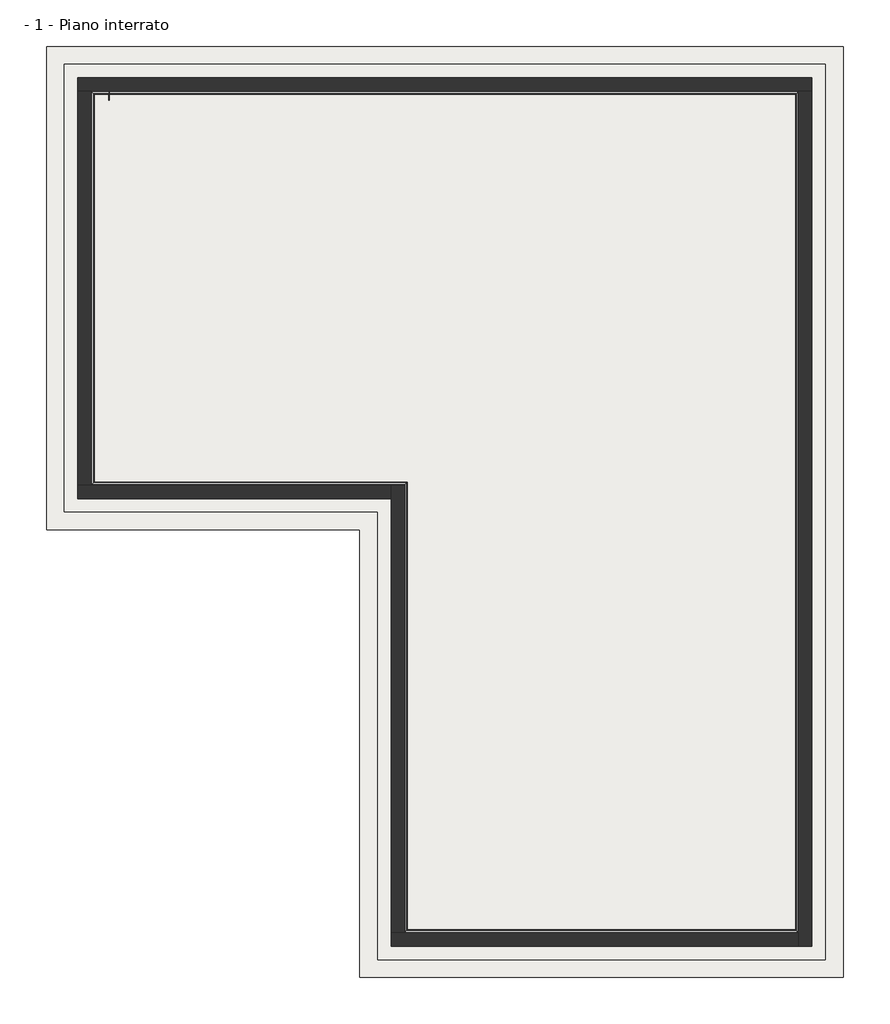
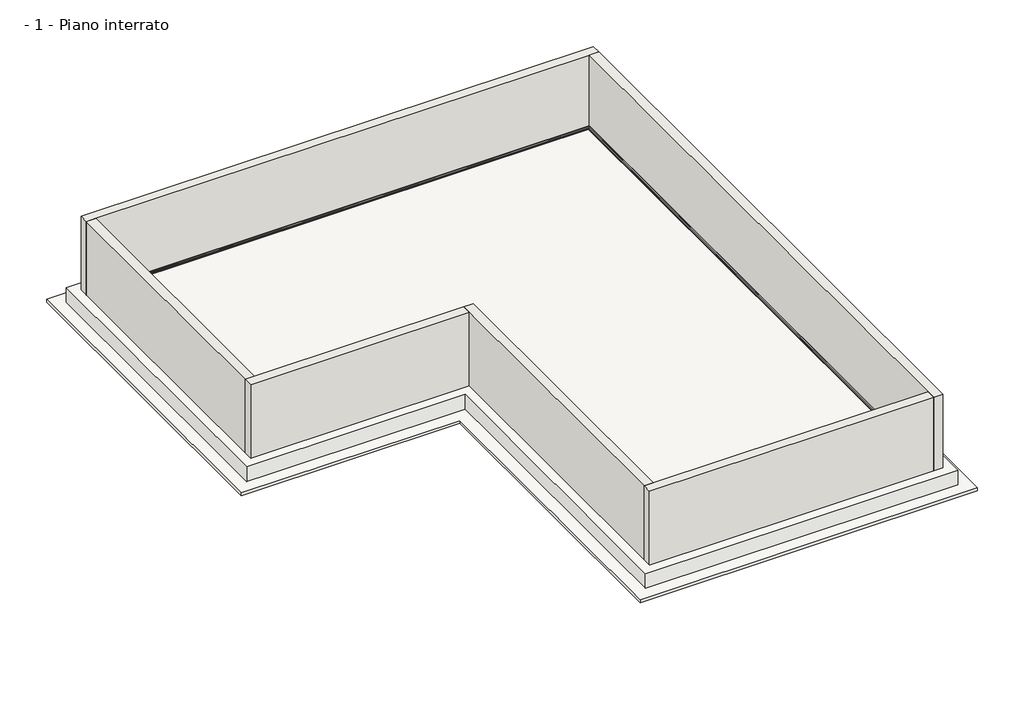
# One storey: 6 walls, 3 slabs, 2 proxies.
"""IFC4 building model written with IfcOpenShell, lengths in millimetres."""

import ifcopenshell
import ifcopenshell.guid

model = None  # the IFC model being written
_history = None  # IfcOwnerHistory: only IFC2X3 demands one
_inside = {}  # id of a spatial element -> (the spatial element, [elements in it])
_under = {}  # id of a project, library or spatial element -> (it, [spatial elements below it])
_declared = {}  # id of a project -> (the project, [libraries it declares])
_typed = {}  # id of a type object -> (the type object, [elements of that type])
_made_of = {}  # id of a material, layer set ... -> (it, [elements and type objects made of it])


def new_model(schema):
    """Start an empty IFC model of exactly this schema.

    Asked for "IFC4X3", IfcOpenShell would pick the latest addendum, in which some entities
    have other attributes; the version numbers below select the first issue.
    IFC2X3 requires an IfcOwnerHistory on every rooted entity: one is made here for all.
    """
    global model, _history
    if schema == "IFC4X3":
        model = ifcopenshell.file(schema_version=(4, 3, 0, 0))
    else:
        model = ifcopenshell.file(schema=schema)
    _inside.clear()
    _under.clear()
    _declared.clear()
    _typed.clear()
    _made_of.clear()
    _history = None
    if model.schema == "IFC2X3":
        org = make("IfcOrganization", Name="unknown")
        user = make(
            "IfcPersonAndOrganization",
            ThePerson=make("IfcPerson", FamilyName="unknown"),
            TheOrganization=org,
        )
        app = make(
            "IfcApplication",
            ApplicationDeveloper=org,
            Version="unknown",
            ApplicationFullName="unknown",
            ApplicationIdentifier="unknown",
        )
        _history = make(
            "IfcOwnerHistory",
            OwningUser=user,
            OwningApplication=app,
            ChangeAction="ADDED",
            CreationDate=0,
        )
    return model


def make(cls, **values):
    """One entity of the class cls with the attributes given. An attribute that is None is left unset."""
    return model.create_entity(
        cls, **{name: value for name, value in values.items() if value is not None}
    )


def rooted(cls, **values):
    """An entity with a GlobalId (a new one), such as an element, a storey or a relation."""
    return make(cls, GlobalId=ifcopenshell.guid.new(), OwnerHistory=_history, **values)


def si_unit(unit_type, name, prefix=None):
    """IfcSIUnit, for example si_unit("LENGTHUNIT", "METRE", prefix="MILLI")."""
    return make("IfcSIUnit", UnitType=unit_type, Prefix=prefix, Name=name)


def assignment(units):
    """IfcUnitAssignment: the units of a project."""
    return None if units is None else make("IfcUnitAssignment", Units=units)


def point(xyz):
    """IfcCartesianPoint."""
    return None if xyz is None else make("IfcCartesianPoint", Coordinates=xyz)


def direction(xyz):
    """IfcDirection."""
    return None if xyz is None else make("IfcDirection", DirectionRatios=xyz)


def frame(location, z_axis=None, x_axis=None):
    """IfcAxis2Placement3D, a coordinate frame: its origin and axes. An axis left out is left unset."""
    return make(
        "IfcAxis2Placement3D",
        Location=point(location),
        Axis=direction(z_axis),
        RefDirection=direction(x_axis),
    )


def frame_2d(location, x_axis=None):
    """IfcAxis2Placement2D, a coordinate frame in the plane: its origin and x axis."""
    return make(
        "IfcAxis2Placement2D", Location=point(location), RefDirection=direction(x_axis)
    )


def origin():
    """The frame at (0, 0, 0) with its axes left unset."""
    return frame((0.0, 0.0, 0.0))


def origin_with_axes():
    """The frame at (0, 0, 0) with the z axis (0, 0, 1) and the x axis (1, 0, 0) written out."""
    return frame((0.0, 0.0, 0.0), z_axis=(0.0, 0.0, 1.0), x_axis=(1.0, 0.0, 0.0))


def origin_2d():
    """The frame at (0, 0) in the plane with its x axis left unset."""
    return frame_2d((0.0, 0.0))


def place(relative_to, where):
    """IfcLocalPlacement: puts the frame where relative to a parent placement (None: the world)."""
    return make(
        "IfcLocalPlacement", PlacementRelTo=relative_to, RelativePlacement=where
    )


def context(
    kind, dimensions, precision=None, world=None, true_north=None, identifier=None
):
    """IfcGeometricRepresentationContext, for example the 3D "Model" context."""
    return make(
        "IfcGeometricRepresentationContext",
        ContextIdentifier=identifier,
        ContextType=kind,
        CoordinateSpaceDimension=dimensions,
        Precision=precision,
        WorldCoordinateSystem=world,
        TrueNorth=true_north,
    )


def project(units=None, contexts=None):
    """IfcProject with its units and contexts."""
    return rooted(
        "IfcProject",
        Name="project",
        RepresentationContexts=contexts,
        UnitsInContext=assignment(units),
    )


def spatial(cls, under=None, at=None, **own):
    """A site, building, storey or space (cls), placed at a placement, below another one or the project."""
    s = rooted(cls, ObjectPlacement=at, **own)
    if under is not None:
        _under.setdefault(under.id(), (under, []))[1].append(s)
    return s


def polyline(points):
    """IfcPolyline through the points."""
    return make("IfcPolyline", Points=[point(p) for p in points])


def circle_curve(where, radius):
    """IfcCircle in the frame where."""
    return make("IfcCircle", Position=where, Radius=radius)


def trimmed(basis, trim1, trim2, sense, master):
    """IfcTrimmedCurve: the piece of a basis curve between two trims."""
    return make(
        "IfcTrimmedCurve",
        BasisCurve=basis,
        Trim1=trim1,
        Trim2=trim2,
        SenseAgreement=sense,
        MasterRepresentation=master,
    )


def segment(curve, same_sense, transition):
    """IfcCompositeCurveSegment."""
    return make(
        "IfcCompositeCurveSegment",
        Transition=transition,
        SameSense=same_sense,
        ParentCurve=curve,
    )


def composite_curve(segments, self_intersect=None):
    """IfcCompositeCurve: segments joined end to end."""
    return make("IfcCompositeCurve", Segments=segments, SelfIntersect=self_intersect)


def outline(outer, holes=None, kind="AREA"):
    """IfcArbitraryClosedProfileDef: a profile drawn as a closed curve; with holes, ...WithVoids."""
    if holes is None:
        return make("IfcArbitraryClosedProfileDef", ProfileType=kind, OuterCurve=outer)
    return make(
        "IfcArbitraryProfileDefWithVoids",
        ProfileType=kind,
        OuterCurve=outer,
        InnerCurves=holes,
    )


def extrude(swept, where, along, depth):
    """IfcExtrudedAreaSolid: the profile swept, set in the frame where, extruded along a direction by depth."""
    return make(
        "IfcExtrudedAreaSolid",
        SweptArea=swept,
        Position=where,
        ExtrudedDirection=direction(along),
        Depth=depth,
    )


def faces_of(points, faces, orient=None, outer=None):
    """IfcFace entities. A face is a list of loops; a loop is a list of indices into points, from 0.

    orient and outer hold one flag for each loop. By default every Orientation is true, the
    first loop of a face is its IfcFaceOuterBound and the others are IfcFaceBound.
    """
    made = []
    for i, loops in enumerate(faces):
        bounds = []
        for j, loop in enumerate(loops):
            is_outer = j == 0 if outer is None else outer[i][j]
            bounds.append(
                make(
                    "IfcFaceOuterBound" if is_outer else "IfcFaceBound",
                    Bound=make("IfcPolyLoop", Polygon=[points[k] for k in loop]),
                    Orientation=True if orient is None else orient[i][j],
                )
            )
        made.append(make("IfcFace", Bounds=bounds))
    return made


def faceted_brep(points, faces, orient=None, outer=None, voids=None):
    """IfcFacetedBrep: a solid bounded by flat faces; with voids (closed shells), ...WithVoids."""
    shared = [point(p) for p in points]
    hull = make("IfcClosedShell", CfsFaces=faces_of(shared, faces, orient, outer))
    if voids is None:
        return make("IfcFacetedBrep", Outer=hull)
    return make(
        "IfcFacetedBrepWithVoids",
        Outer=hull,
        Voids=[
            make(cls, CfsFaces=faces_of(shared, fs, o, b)) for cls, fs, o, b in voids
        ],
    )


def shape(context_of_items, identifier, shape_type, items):
    """IfcShapeRepresentation: the items that make up one representation, for example the "Body"."""
    return make(
        "IfcShapeRepresentation",
        ContextOfItems=context_of_items,
        RepresentationIdentifier=identifier,
        RepresentationType=shape_type,
        Items=items,
    )


def source(mapping_origin, context_of_items, identifier, shape_type, items):
    """IfcRepresentationMap: a shape defined once, which mapped items show again and again."""
    return make(
        "IfcRepresentationMap",
        MappingOrigin=mapping_origin,
        MappedRepresentation=shape(context_of_items, identifier, shape_type, items),
    )


def transform(
    local_origin,
    x_axis=None,
    y_axis=None,
    z_axis=None,
    scale=None,
    scale2=None,
    scale3=None,
    uniform=True,
):
    """IfcCartesianTransformationOperator3D, or its non-uniform kind. x_axis, y_axis, z_axis: its Axis1, 2, 3."""
    if uniform:
        return make(
            "IfcCartesianTransformationOperator3D",
            Axis1=direction(x_axis),
            Axis2=direction(y_axis),
            LocalOrigin=point(local_origin),
            Scale=scale,
            Axis3=direction(z_axis),
        )
    return make(
        "IfcCartesianTransformationOperator3DnonUniform",
        Axis1=direction(x_axis),
        Axis2=direction(y_axis),
        LocalOrigin=point(local_origin),
        Scale=scale,
        Axis3=direction(z_axis),
        Scale2=scale2,
        Scale3=scale3,
    )


def mapped(mapping_source, mapping_target):
    """IfcMappedItem: shows the shape of a source again, moved by a transform."""
    return make(
        "IfcMappedItem", MappingSource=mapping_source, MappingTarget=mapping_target
    )


def made_of(thing, what):
    """Note that an element or type object is made of a material, layer set ...; save() writes the relation."""
    if what is not None:
        _made_of.setdefault(what.id(), (what, []))[1].append(thing)
    return thing


def element(
    cls,
    number,
    at=None,
    inside=None,
    cuts=None,
    type_object=None,
    material=None,
    context=None,
    identifier="Body",
    shape_type=None,
    held_by="IfcProductDefinitionShape",
    body=None,
    shapes=None,
    **own,
):
    """One element of the class cls, such as IfcWall. Its Tag is "e" and its number.

    at: its placement. inside: the storey or other place that contains it. cuts: it is an
    opening in that element (IfcRelVoidsElement). A single representation is given by context,
    identifier, shape_type and body (its items); several are given by shapes. held_by: the class
    of the entity that holds the representations. save() writes the other relations.
    """
    e = rooted(cls, Tag="e%d" % number, ObjectPlacement=at, **own)
    if body is not None:
        shapes = [shape(context, identifier, shape_type, body)]
    if shapes is not None:
        e.Representation = make(held_by, Representations=shapes)
    if inside is not None:
        _inside.setdefault(inside.id(), (inside, []))[1].append(e)
    if cuts is not None:
        rooted(
            "IfcRelVoidsElement", RelatingBuildingElement=cuts, RelatedOpeningElement=e
        )
    if type_object is not None:
        _typed.setdefault(type_object.id(), (type_object, []))[1].append(e)
    return made_of(e, material)


def aggregate(whole, parts):
    """IfcRelAggregates: a whole, such as a stair, and the parts it consists of."""
    return rooted("IfcRelAggregates", RelatingObject=whole, RelatedObjects=parts)


def save(model, path):
    """Write the relations noted so far, then the file.

    IfcRelAggregates (storeys below a building ...), IfcRelContainedInSpatialStructure (elements
    in a storey), IfcRelDefinesByType, IfcRelAssociatesMaterial and IfcRelDeclares: one each for
    every whole, place, type object, material and project.
    """
    for whole, parts in _under.values():
        aggregate(whole, parts)
    for where, things in _inside.values():
        rooted(
            "IfcRelContainedInSpatialStructure",
            RelatedElements=things,
            RelatingStructure=where,
        )
    for kind, things in _typed.values():
        rooted("IfcRelDefinesByType", RelatedObjects=things, RelatingType=kind)
    for what, things in _made_of.values():
        rooted("IfcRelAssociatesMaterial", RelatedObjects=things, RelatingMaterial=what)
    for by, libraries in _declared.values():
        rooted("IfcRelDeclares", RelatingContext=by, RelatedDefinitions=libraries)
    model.write(path)


def generic_models_3b7ed561(model_context):
    return source(origin(), model_context, "Body", "SweptSolid", [
        extrude(outline(composite_curve([segment(trimmed(circle_curve(origin_2d(), 5.0), [point((-5.0, 0.0))], [point((5.0, 0.0))], False, "CARTESIAN"), True, "CONTINUOUS"), segment(trimmed(circle_curve(origin_2d(), 5.0), [point((5.0, 0.0))], [point((-5.0, 0.0))], False, "CARTESIAN"), True, "CONTINUOUS")], self_intersect=False)), origin_with_axes(), (0.0, 0.0, 1.0), 200.0),
    ])


model = new_model("IFC4")

# Units and contexts
model_context = context("Model", 3, world=origin())
ifc_project = project(units=[si_unit("LENGTHUNIT", "METRE", prefix="MILLI")], contexts=[model_context])

# Site, building, storey
site = spatial("IfcSite", under=ifc_project)
building = spatial("IfcBuilding", under=site)
storey = spatial("IfcBuildingStorey", under=building, Name="- 1 - Piano interrato", Elevation=-2500.0)

# Proxies
placement = place(None, origin())
element("IfcBuildingElementProxy", 1, Name="SISTEMA BI FLEX H.10 VOLTECO", ObjectType="SISTEMA BI FLEX H.10 VOLTECO", at=placement, inside=storey, context=model_context, shape_type="Brep", body=[
    faceted_brep([(-5465.8968209, 8966.648913, -2459.0), (-5468.3968209, 8969.148913, -2456.5), (-5475.3968209, 8976.148913, -2456.5), (-5476.8968209, 8977.648913, -2455.5), (-5524.3968209, 9025.148913, -2455.5), (-5524.3968209, 9025.148913, -2408.0), (-5525.3968209, 9026.148913, -2406.5), (-5525.3968209, 9026.148913, -2399.5), (-5527.8968209, 9028.648913, -2397.0), (-5527.8968209, 9028.648913, -2459.0), (-5526.8968209, 9027.648913, -2408.0), (-5525.8968209, 9026.648913, -2408.0), (-5525.8968209, 9026.648913, -2457.0), (-5476.8968209, 8977.648913, -2457.0), (-5476.8968209, 8977.648913, -2458.0), (-5526.8968209, 9027.648913, -2458.0), (10210.1031791, 8966.648913, -2459.0), (10272.1031791, 9028.648913, -2459.0), (10272.1031791, 9028.648913, -2397.0), (10269.6031791, 9026.148913, -2399.5), (10269.6031791, 9026.148913, -2406.5), (10268.6031791, 9025.148913, -2408.0), (10268.6031791, 9025.148913, -2455.5), (10221.1031791, 8977.648913, -2455.5), (10219.6031791, 8976.148913, -2456.5), (10212.6031791, 8969.148913, -2456.5), (10271.1031791, 9027.648913, -2408.0), (10271.1031791, 9027.648913, -2458.0), (10221.1031791, 8977.648913, -2458.0), (10221.1031791, 8977.648913, -2457.0), (10270.1031791, 9026.648913, -2457.0), (10270.1031791, 9026.648913, -2408.0)], [[[0, 1, 2, 3, 4, 5, 6, 7, 8, 9], [10, 11, 12, 13, 14, 15]], [[16, 17, 18, 19, 20, 21, 22, 23, 24, 25], [26, 27, 28, 29, 30, 31]], [[1, 0, 16, 25]], [[2, 1, 25, 24]], [[3, 2, 24, 23]], [[4, 3, 23, 22]], [[5, 4, 22, 21]], [[6, 5, 21, 20]], [[7, 6, 20, 19]], [[8, 7, 19, 18]], [[9, 8, 18, 17]], [[0, 9, 17, 16]], [[11, 10, 26, 31]], [[12, 11, 31, 30]], [[13, 12, 30, 29]], [[14, 13, 29, 28]], [[15, 14, 28, 27]], [[10, 15, 27, 26]]]),
    faceted_brep([(10210.1031791, 8966.648913, -2459.0), (10212.6031791, 8969.148913, -2456.5), (10219.6031791, 8976.148913, -2456.5), (10221.1031791, 8977.648913, -2455.5), (10268.6031791, 9025.148913, -2455.5), (10268.6031791, 9025.148913, -2408.0), (10269.6031791, 9026.148913, -2406.5), (10269.6031791, 9026.148913, -2399.5), (10272.1031791, 9028.648913, -2397.0), (10272.1031791, 9028.648913, -2459.0), (10271.1031791, 9027.648913, -2408.0), (10270.1031791, 9026.648913, -2408.0), (10270.1031791, 9026.648913, -2457.0), (10221.1031791, 8977.648913, -2457.0), (10221.1031791, 8977.648913, -2458.0), (10271.1031791, 9027.648913, -2458.0), (10210.1031791, -9709.351087, -2459.0), (10272.1031791, -9771.351087, -2459.0), (10272.1031791, -9771.351087, -2397.0), (10269.6031791, -9768.851087, -2399.5), (10269.6031791, -9768.851087, -2406.5), (10268.6031791, -9767.851087, -2408.0), (10268.6031791, -9767.851087, -2455.5), (10221.1031791, -9720.351087, -2455.5), (10219.6031791, -9718.851087, -2456.5), (10212.6031791, -9711.851087, -2456.5), (10271.1031791, -9770.351087, -2408.0), (10271.1031791, -9770.351087, -2458.0), (10221.1031791, -9720.351087, -2458.0), (10221.1031791, -9720.351087, -2457.0), (10270.1031791, -9769.351087, -2457.0), (10270.1031791, -9769.351087, -2408.0)], [[[0, 1, 2, 3, 4, 5, 6, 7, 8, 9], [10, 11, 12, 13, 14, 15]], [[16, 17, 18, 19, 20, 21, 22, 23, 24, 25], [26, 27, 28, 29, 30, 31]], [[1, 0, 16, 25]], [[2, 1, 25, 24]], [[3, 2, 24, 23]], [[4, 3, 23, 22]], [[5, 4, 22, 21]], [[6, 5, 21, 20]], [[7, 6, 20, 19]], [[8, 7, 19, 18]], [[9, 8, 18, 17]], [[0, 9, 17, 16]], [[11, 10, 26, 31]], [[12, 11, 31, 30]], [[13, 12, 30, 29]], [[14, 13, 29, 28]], [[15, 14, 28, 27]], [[10, 15, 27, 26]]]),
    faceted_brep([(10210.1031791, -9709.351087, -2459.0), (10212.6031791, -9711.851087, -2456.5), (10219.6031791, -9718.851087, -2456.5), (10221.1031791, -9720.351087, -2455.5), (10268.6031791, -9767.851087, -2455.5), (10268.6031791, -9767.851087, -2408.0), (10269.6031791, -9768.851087, -2406.5), (10269.6031791, -9768.851087, -2399.5), (10272.1031791, -9771.351087, -2397.0), (10272.1031791, -9771.351087, -2459.0), (10271.1031791, -9770.351087, -2408.0), (10270.1031791, -9769.351087, -2408.0), (10270.1031791, -9769.351087, -2457.0), (10221.1031791, -9720.351087, -2457.0), (10221.1031791, -9720.351087, -2458.0), (10271.1031791, -9770.351087, -2458.0), (1534.1031791, -9709.351087, -2459.0), (1472.1031791, -9771.351087, -2459.0), (1472.1031791, -9771.351087, -2397.0), (1474.6031791, -9768.851087, -2399.5), (1474.6031791, -9768.851087, -2406.5), (1475.6031791, -9767.851087, -2408.0), (1475.6031791, -9767.851087, -2455.5), (1523.1031791, -9720.351087, -2455.5), (1524.6031791, -9718.851087, -2456.5), (1531.6031791, -9711.851087, -2456.5), (1473.1031791, -9770.351087, -2408.0), (1473.1031791, -9770.351087, -2458.0), (1523.1031791, -9720.351087, -2458.0), (1523.1031791, -9720.351087, -2457.0), (1474.1031791, -9769.351087, -2457.0), (1474.1031791, -9769.351087, -2408.0)], [[[0, 1, 2, 3, 4, 5, 6, 7, 8, 9], [10, 11, 12, 13, 14, 15]], [[16, 17, 18, 19, 20, 21, 22, 23, 24, 25], [26, 27, 28, 29, 30, 31]], [[1, 0, 16, 25]], [[2, 1, 25, 24]], [[3, 2, 24, 23]], [[4, 3, 23, 22]], [[5, 4, 22, 21]], [[6, 5, 21, 20]], [[7, 6, 20, 19]], [[8, 7, 19, 18]], [[9, 8, 18, 17]], [[0, 9, 17, 16]], [[11, 10, 26, 31]], [[12, 11, 31, 30]], [[13, 12, 30, 29]], [[14, 13, 29, 28]], [[15, 14, 28, 27]], [[10, 15, 27, 26]]]),
    faceted_brep([(1534.1031791, -9709.351087, -2459.0), (1531.6031791, -9711.851087, -2456.5), (1524.6031791, -9718.851087, -2456.5), (1523.1031791, -9720.351087, -2455.5), (1475.6031791, -9767.851087, -2455.5), (1475.6031791, -9767.851087, -2408.0), (1474.6031791, -9768.851087, -2406.5), (1474.6031791, -9768.851087, -2399.5), (1472.1031791, -9771.351087, -2397.0), (1472.1031791, -9771.351087, -2459.0), (1473.1031791, -9770.351087, -2408.0), (1474.1031791, -9769.351087, -2408.0), (1474.1031791, -9769.351087, -2457.0), (1523.1031791, -9720.351087, -2457.0), (1523.1031791, -9720.351087, -2458.0), (1473.1031791, -9770.351087, -2458.0), (1534.1031791, 290.648913, -2459.0), (1472.1031791, 228.648913, -2459.0), (1472.1031791, 228.648913, -2397.0), (1474.6031791, 231.148913, -2399.5), (1474.6031791, 231.148913, -2406.5), (1475.6031791, 232.148913, -2408.0), (1475.6031791, 232.148913, -2455.5), (1523.1031791, 279.648913, -2455.5), (1524.6031791, 281.148913, -2456.5), (1531.6031791, 288.148913, -2456.5), (1473.1031791, 229.648913, -2408.0), (1473.1031791, 229.648913, -2458.0), (1523.1031791, 279.648913, -2458.0), (1523.1031791, 279.648913, -2457.0), (1474.1031791, 230.648913, -2457.0), (1474.1031791, 230.648913, -2408.0)], [[[0, 1, 2, 3, 4, 5, 6, 7, 8, 9], [10, 11, 12, 13, 14, 15]], [[16, 17, 18, 19, 20, 21, 22, 23, 24, 25], [26, 27, 28, 29, 30, 31]], [[1, 0, 16, 25]], [[2, 1, 25, 24]], [[3, 2, 24, 23]], [[4, 3, 23, 22]], [[5, 4, 22, 21]], [[6, 5, 21, 20]], [[7, 6, 20, 19]], [[8, 7, 19, 18]], [[9, 8, 18, 17]], [[0, 9, 17, 16]], [[11, 10, 26, 31]], [[12, 11, 31, 30]], [[13, 12, 30, 29]], [[14, 13, 29, 28]], [[15, 14, 28, 27]], [[10, 15, 27, 26]]]),
    faceted_brep([(1534.1031791, 290.648913, -2459.0), (1531.6031791, 288.148913, -2456.5), (1524.6031791, 281.148913, -2456.5), (1523.1031791, 279.648913, -2455.5), (1475.6031791, 232.148913, -2455.5), (1475.6031791, 232.148913, -2408.0), (1474.6031791, 231.148913, -2406.5), (1474.6031791, 231.148913, -2399.5), (1472.1031791, 228.648913, -2397.0), (1472.1031791, 228.648913, -2459.0), (1473.1031791, 229.648913, -2408.0), (1474.1031791, 230.648913, -2408.0), (1474.1031791, 230.648913, -2457.0), (1523.1031791, 279.648913, -2457.0), (1523.1031791, 279.648913, -2458.0), (1473.1031791, 229.648913, -2458.0), (-5465.8968209, 290.648913, -2459.0), (-5527.8968209, 228.648913, -2459.0), (-5527.8968209, 228.648913, -2397.0), (-5525.3968209, 231.148913, -2399.5), (-5525.3968209, 231.148913, -2406.5), (-5524.3968209, 232.148913, -2408.0), (-5524.3968209, 232.148913, -2455.5), (-5476.8968209, 279.648913, -2455.5), (-5475.3968209, 281.148913, -2456.5), (-5468.3968209, 288.148913, -2456.5), (-5526.8968209, 229.648913, -2408.0), (-5526.8968209, 229.648913, -2458.0), (-5476.8968209, 279.648913, -2458.0), (-5476.8968209, 279.648913, -2457.0), (-5525.8968209, 230.648913, -2457.0), (-5525.8968209, 230.648913, -2408.0)], [[[0, 1, 2, 3, 4, 5, 6, 7, 8, 9], [10, 11, 12, 13, 14, 15]], [[16, 17, 18, 19, 20, 21, 22, 23, 24, 25], [26, 27, 28, 29, 30, 31]], [[1, 0, 16, 25]], [[2, 1, 25, 24]], [[3, 2, 24, 23]], [[4, 3, 23, 22]], [[5, 4, 22, 21]], [[6, 5, 21, 20]], [[7, 6, 20, 19]], [[8, 7, 19, 18]], [[9, 8, 18, 17]], [[0, 9, 17, 16]], [[11, 10, 26, 31]], [[12, 11, 31, 30]], [[13, 12, 30, 29]], [[14, 13, 29, 28]], [[15, 14, 28, 27]], [[10, 15, 27, 26]]]),
    faceted_brep([(-5465.8968209, 290.648913, -2459.0), (-5468.3968209, 288.148913, -2456.5), (-5475.3968209, 281.148913, -2456.5), (-5476.8968209, 279.648913, -2455.5), (-5524.3968209, 232.148913, -2455.5), (-5524.3968209, 232.148913, -2408.0), (-5525.3968209, 231.148913, -2406.5), (-5525.3968209, 231.148913, -2399.5), (-5527.8968209, 228.648913, -2397.0), (-5527.8968209, 228.648913, -2459.0), (-5526.8968209, 229.648913, -2408.0), (-5525.8968209, 230.648913, -2408.0), (-5525.8968209, 230.648913, -2457.0), (-5476.8968209, 279.648913, -2457.0), (-5476.8968209, 279.648913, -2458.0), (-5526.8968209, 229.648913, -2458.0), (-5465.8968209, 8966.648913, -2459.0), (-5527.8968209, 9028.648913, -2459.0), (-5527.8968209, 9028.648913, -2397.0), (-5525.3968209, 9026.148913, -2399.5), (-5525.3968209, 9026.148913, -2406.5), (-5524.3968209, 9025.148913, -2408.0), (-5524.3968209, 9025.148913, -2455.5), (-5476.8968209, 8977.648913, -2455.5), (-5475.3968209, 8976.148913, -2456.5), (-5468.3968209, 8969.148913, -2456.5), (-5526.8968209, 9027.648913, -2408.0), (-5526.8968209, 9027.648913, -2458.0), (-5476.8968209, 8977.648913, -2458.0), (-5476.8968209, 8977.648913, -2457.0), (-5525.8968209, 9026.648913, -2457.0), (-5525.8968209, 9026.648913, -2408.0)], [[[0, 1, 2, 3, 4, 5, 6, 7, 8, 9], [10, 11, 12, 13, 14, 15]], [[16, 17, 18, 19, 20, 21, 22, 23, 24, 25], [26, 27, 28, 29, 30, 31]], [[1, 0, 16, 25]], [[2, 1, 25, 24]], [[3, 2, 24, 23]], [[4, 3, 23, 22]], [[5, 4, 22, 21]], [[6, 5, 21, 20]], [[7, 6, 20, 19]], [[8, 7, 19, 18]], [[9, 8, 18, 17]], [[0, 9, 17, 16]], [[11, 10, 26, 31]], [[12, 11, 31, 30]], [[13, 12, 30, 29]], [[14, 13, 29, 28]], [[15, 14, 28, 27]], [[10, 15, 27, 26]]]),
])
generic_models_shape = generic_models_3b7ed561(model_context)
element("IfcBuildingElementProxy", 2, Name="ENG-Connectors installed in vertical walls sealed with AKTI-VO 201 : ENG-Connectors installed in vertical walls sealed with AKTI-VO 201", ObjectType="ENG-Connectors installed in vertical walls sealed with AKTI-VO 201 : ENG-Connectors installed in vertical walls sealed with AKTI-VO 201", at=placement, inside=storey, context=model_context, shape_type="MappedRepresentation", body=[
    mapped(generic_models_shape, transform((-5130.8968209, 9028.648913, -2461.2887453), x_axis=(1.0, 0.0, 0.0), y_axis=(0.0, 0.0, 1.0), z_axis=(0.0, -1.0, 0.0))),
])

# Slabs
element("IfcSlab", 3, ObjectType="BI MORTAR LEVELLING SEAL VOLTECO", at=placement, inside=storey, context=model_context, shape_type="SweptSolid", body=[
    extrude(outline(polyline([(1472.1031791, 228.648913), (-5527.8968209, 228.648913), (-5527.8968209, 9028.648913), (10272.1031791, 9028.648913), (10272.1031791, -9771.351087), (1472.1031791, -9771.351087), (1472.1031791, 228.648913)])), frame((0.0, 0.0, -2500.0), z_axis=(0.0, 0.0, 1.0), x_axis=(1.0, 0.0, 0.0)), (0.0, 0.0, 1.0), 20.0),
])
element("IfcSlab", 4, ObjectType="Blinding concrete", at=placement, inside=storey, context=model_context, shape_type="SweptSolid", body=[
    extrude(outline(polyline([(-6527.8968209, 10028.648913), (11272.1031791, 10028.648913), (11272.1031791, -10771.351087), (472.1031791, -10771.351087), (472.1031791, -771.351087), (-6527.8968209, -771.351087), (-6527.8968209, 10028.648913)])), frame((0.0, 0.0, -3100.0), z_axis=(0.0, 0.0, 1.0), x_axis=(1.0, 0.0, 0.0)), (0.0, 0.0, 1.0), 100.0),
])
element("IfcSlab", 5, ObjectType="Raft foundation", at=placement, inside=storey, context=model_context, shape_type="SweptSolid", body=[
    extrude(outline(polyline([(-6127.8968209, -371.351087), (-6127.8968209, 9628.648913), (10872.1031791, 9628.648913), (10872.1031791, -10371.351087), (872.1031791, -10371.351087), (872.1031791, -371.351087), (-6127.8968209, -371.351087)])), frame((0.0, 0.0, -3000.0), z_axis=(0.0, 0.0, 1.0), x_axis=(1.0, 0.0, 0.0)), (0.0, 0.0, 1.0), 500.0),
])

# Walls
element("IfcWall", 6, ObjectType="RC Wall", at=placement, inside=storey, context=model_context, shape_type="Brep", body=[
    faceted_brep([(-5827.8968209, 9028.648913, -2500.0), (-5527.8968209, 9028.648913, -2500.0), (10272.1031791, 9028.648913, -2500.0), (10572.1031791, 9028.648913, -2500.0), (10572.1031791, 9028.648913, 0.0), (10272.1031791, 9028.648913, 0.0), (-5527.8968209, 9028.648913, 0.0), (-5827.8968209, 9028.648913, 0.0), (-5827.8968209, 9328.648913, -2500.0), (-5827.8968209, 9328.648913, 0.0), (10572.1031791, 9328.648913, 0.0), (10572.1031791, 9328.648913, -2500.0)], [[[0, 1, 2, 3, 4, 5, 6, 7]], [[8, 9, 10, 11]], [[3, 2, 1, 0, 8, 11]], [[7, 6, 5, 4, 10, 9]], [[4, 3, 11, 10]], [[0, 7, 9, 8]]]),
])
element("IfcWall", 7, ObjectType="RC Wall", at=placement, inside=storey, context=model_context, shape_type="Brep", body=[
    faceted_brep([(10272.1031791, 9028.648913, -2500.0), (10272.1031791, -9771.351087, -2500.0), (10272.1031791, -10071.351087, -2500.0), (10272.1031791, -10071.351087, 0.0), (10272.1031791, -9771.351087, 0.0), (10272.1031791, 9028.648913, 0.0), (10572.1031791, 9028.648913, -2500.0), (10572.1031791, 9028.648913, 0.0), (10572.1031791, -10071.351087, 0.0), (10572.1031791, -10071.351087, -2500.0)], [[[0, 1, 2, 3, 4, 5]], [[6, 7, 8, 9]], [[2, 1, 0, 6, 9]], [[5, 4, 3, 8, 7]], [[0, 5, 7, 6]], [[3, 2, 9, 8]]]),
])
element("IfcWall", 8, ObjectType="RC Wall", at=placement, inside=storey, context=model_context, shape_type="Brep", body=[
    faceted_brep([(10272.1031791, -9771.351087, -2500.0), (1472.1031791, -9771.351087, -2500.0), (1172.1031791, -9771.351087, -2500.0), (1172.1031791, -9771.351087, 0.0), (1472.1031791, -9771.351087, 0.0), (10272.1031791, -9771.351087, 0.0), (10272.1031791, -10071.351087, -2500.0), (10272.1031791, -10071.351087, 0.0), (1172.1031791, -10071.351087, 0.0), (1172.1031791, -10071.351087, -2500.0)], [[[0, 1, 2, 3, 4, 5]], [[6, 7, 8, 9]], [[2, 1, 0, 6, 9]], [[5, 4, 3, 8, 7]], [[0, 5, 7, 6]], [[3, 2, 9, 8]]]),
])
element("IfcWall", 9, ObjectType="RC Wall", at=placement, inside=storey, context=model_context, shape_type="Brep", body=[
    faceted_brep([(1472.1031791, -9771.351087, -2500.0), (1472.1031791, 228.648913, -2500.0), (1472.1031791, 228.648913, 0.0), (1472.1031791, -9771.351087, 0.0), (1172.1031791, -9771.351087, -2500.0), (1172.1031791, -9771.351087, 0.0), (1172.1031791, -71.351087, 0.0), (1172.1031791, 228.648913, 0.0), (1172.1031791, 228.648913, -2500.0), (1172.1031791, -71.351087, -2500.0)], [[[0, 1, 2, 3]], [[4, 5, 6, 7, 8, 9]], [[1, 0, 4, 9, 8]], [[3, 2, 7, 6, 5]], [[0, 3, 5, 4]], [[2, 1, 8, 7]]]),
])
element("IfcWall", 10, ObjectType="RC Wall", at=placement, inside=storey, context=model_context, shape_type="Brep", body=[
    faceted_brep([(1172.1031791, 228.648913, -2500.0), (-5527.8968209, 228.648913, -2500.0), (-5827.8968209, 228.648913, -2500.0), (-5827.8968209, 228.648913, 0.0), (-5527.8968209, 228.648913, 0.0), (1172.1031791, 228.648913, 0.0), (1172.1031791, -71.351087, -2500.0), (1172.1031791, -71.351087, 0.0), (-5827.8968209, -71.351087, 0.0), (-5827.8968209, -71.351087, -2500.0)], [[[0, 1, 2, 3, 4, 5]], [[6, 7, 8, 9]], [[2, 1, 0, 6, 9]], [[5, 4, 3, 8, 7]], [[0, 5, 7, 6]], [[3, 2, 9, 8]]]),
])
element("IfcWall", 11, ObjectType="RC Wall", at=placement, inside=storey, context=model_context, shape_type="SweptSolid", body=[
    extrude(outline(polyline([(-5527.8968209, 9028.648913), (-5527.8968209, 228.648913), (-5827.8968209, 228.648913), (-5827.8968209, 9028.648913), (-5527.8968209, 9028.648913)])), frame((0.0, 0.0, -2500.0), z_axis=(0.0, 0.0, 1.0), x_axis=(1.0, 0.0, 0.0)), (0.0, 0.0, 1.0), 2500.0),
])

save(model, "model.ifc")
